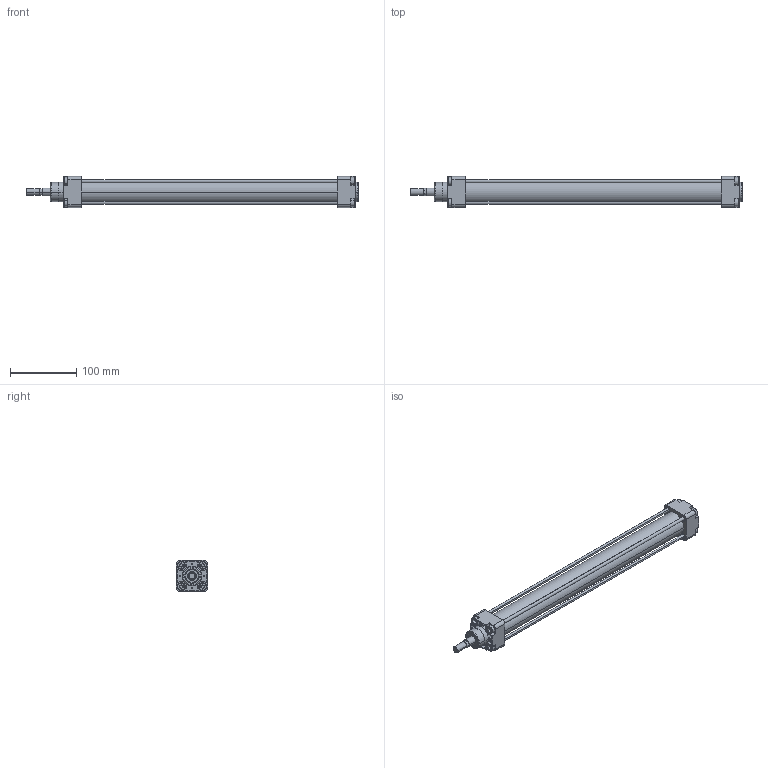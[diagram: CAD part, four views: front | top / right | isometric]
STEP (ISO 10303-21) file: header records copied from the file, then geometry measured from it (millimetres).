
FILE_DESCRIPTION(('CATIA V5 STEP Exchange'),'2;1');
FILE_NAME('D:\stp file for catalog\PNC\32\PNC 32-12-350.stp','2015-10-14T11:16:43+00:00',('none'),('none'),'Version 5-6 Release 2012','CATIA V5 STEP AP203','none');
FILE_SCHEMA(('CONFIG_CONTROL_DESIGN'));
Length unit declared in the file: millimetre
Products named in the file (1): PNC 32-12-350-00
Assembly tree (2 placements, depth 2):
  PNC 32-12-350-00
    #58
    #15737
Bounding box: 502.5 x 47 x 47 mm (x, y, z)
Volume: 301394.6 mm3; surface area: 169902 mm2
Topology: 6 solids, 6 shells, 587 faces, 1488 edges, 974 vertices
Faces by surface type: plane 359, cylinder 166, torus 26, cone 20, extrusion 16
Entity records: 16261 total; most frequent: CARTESIAN_POINT 3407, ORIENTED_EDGE 2976, DIRECTION 1948, EDGE_CURVE 1488, VERTEX_POINT 974, VECTOR 896, LINE 880, AXIS2_PLACEMENT_3D 773
